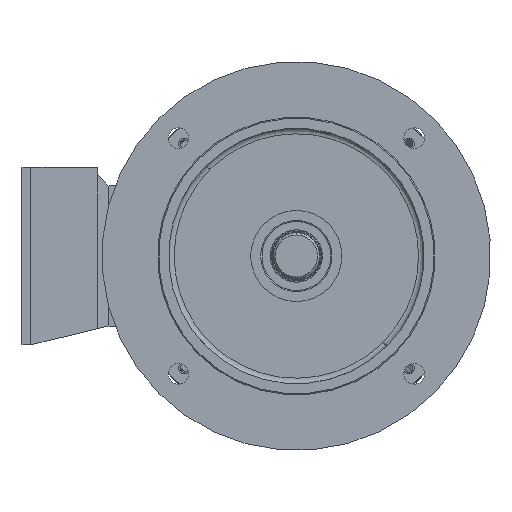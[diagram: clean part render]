
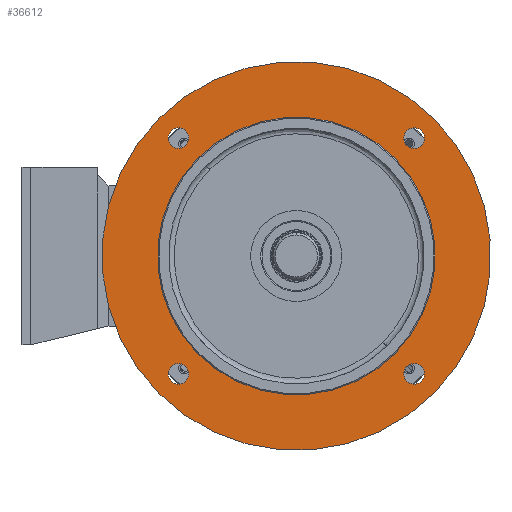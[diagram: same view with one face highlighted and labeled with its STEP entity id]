
A CAD part, left-side view. The second image highlights one B-rep face of the part: STEP entity #36612.
In plain terms, the highlighted planar face has unit normal (-1, 0, 0).
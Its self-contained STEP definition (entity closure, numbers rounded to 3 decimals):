
#471 = CIRCLE ( 'NONE', #58811, 175. ) ;
#473 = CIRCLE ( 'NONE', #58810, 125. ) ;
#484 = CIRCLE ( 'NONE', #58813, 9.25 ) ;
#501 = CIRCLE ( 'NONE', #58815, 9.25 ) ;
#512 = CIRCLE ( 'NONE', #58817, 9.25 ) ;
#530 = CIRCLE ( 'NONE', #58820, 9.25 ) ;
#958 = CIRCLE ( 'NONE', #58906, 125. ) ;
#960 = CIRCLE ( 'NONE', #58907, 175. ) ;
#962 = CIRCLE ( 'NONE', #58908, 9.25 ) ;
#964 = CIRCLE ( 'NONE', #58909, 9.25 ) ;
#966 = CIRCLE ( 'NONE', #58910, 9.25 ) ;
#968 = CIRCLE ( 'NONE', #58911, 9.25 ) ;
#24906 = CARTESIAN_POINT ( 'NONE',  ( -28.733, 0., 0. ) ) ;
#24908 = DIRECTION ( 'NONE',  ( -1., 0., 0. ) ) ;
#24910 = DIRECTION ( 'NONE',  ( 0., 0., 1. ) ) ;
#24919 = CARTESIAN_POINT ( 'NONE',  ( -28.733, 0., 0. ) ) ;
#24921 = DIRECTION ( 'NONE',  ( 1., 0., 0. ) ) ;
#24923 = DIRECTION ( 'NONE',  ( 0., 0., 1. ) ) ;
#24941 = CARTESIAN_POINT ( 'NONE',  ( -28.733, 0., 150. ) ) ;
#24943 = DIRECTION ( 'NONE',  ( -1., 0., 0. ) ) ;
#24944 = DIRECTION ( 'NONE',  ( 0., 0., 1. ) ) ;
#24961 = CARTESIAN_POINT ( 'NONE',  ( -28.733, 150., 0. ) ) ;
#24962 = DIRECTION ( 'NONE',  ( -1., 0., 0. ) ) ;
#24964 = DIRECTION ( 'NONE',  ( 0., 0., 1. ) ) ;
#24983 = CARTESIAN_POINT ( 'NONE',  ( -28.733, -150., 0. ) ) ;
#24985 = DIRECTION ( 'NONE',  ( -1., 0., 0. ) ) ;
#24987 = DIRECTION ( 'NONE',  ( 0., 0., 1. ) ) ;
#25012 = CARTESIAN_POINT ( 'NONE',  ( -28.733, 0., -150. ) ) ;
#25014 = DIRECTION ( 'NONE',  ( -1., 0., 0. ) ) ;
#25016 = DIRECTION ( 'NONE',  ( 0., 0., 1. ) ) ;
#25101 = FACE_BOUND ( 'NONE', #41727, .T. ) ;
#25119 = FACE_BOUND ( 'NONE', #41755, .T. ) ;
#25122 = FACE_BOUND ( 'NONE', #41682, .T. ) ;
#25124 = FACE_OUTER_BOUND ( 'NONE', #41718, .T. ) ;
#25128 = FACE_BOUND ( 'NONE', #41753, .T. ) ;
#25129 = FACE_BOUND ( 'NONE', #41729, .T. ) ;
#27413 = CARTESIAN_POINT ( 'NONE',  ( -28.733, 0., 0. ) ) ;
#27414 = DIRECTION ( 'NONE',  ( -1., 0., 0. ) ) ;
#27415 = DIRECTION ( 'NONE',  ( 0., 0., 1. ) ) ;
#27416 = CARTESIAN_POINT ( 'NONE',  ( -28.733, 0., 0. ) ) ;
#27417 = DIRECTION ( 'NONE',  ( 1., 0., 0. ) ) ;
#27418 = DIRECTION ( 'NONE',  ( 0., 0., 1. ) ) ;
#27419 = CARTESIAN_POINT ( 'NONE',  ( -28.733, 0., 150. ) ) ;
#27420 = DIRECTION ( 'NONE',  ( -1., 0., 0. ) ) ;
#27421 = DIRECTION ( 'NONE',  ( 0., 0., 1. ) ) ;
#27422 = CARTESIAN_POINT ( 'NONE',  ( -28.733, 150., 0. ) ) ;
#27423 = DIRECTION ( 'NONE',  ( -1., 0., 0. ) ) ;
#27424 = DIRECTION ( 'NONE',  ( 0., 0., 1. ) ) ;
#27427 = CARTESIAN_POINT ( 'NONE',  ( -28.733, -150., 0. ) ) ;
#27428 = DIRECTION ( 'NONE',  ( -1., 0., 0. ) ) ;
#27429 = DIRECTION ( 'NONE',  ( 0., 0., 1. ) ) ;
#27430 = CARTESIAN_POINT ( 'NONE',  ( -28.733, 0., -150. ) ) ;
#27431 = DIRECTION ( 'NONE',  ( -1., 0., 0. ) ) ;
#27432 = DIRECTION ( 'NONE',  ( 0., 0., 1. ) ) ;
#36612 = ADVANCED_FACE ( 'NONE', ( #25101, #25128, #25119, #25122, #25124, #25129 ), #57124, .F. ) ;
#41682 = EDGE_LOOP ( 'NONE', ( #41977, #41978 ) ) ;
#41718 = EDGE_LOOP ( 'NONE', ( #41979, #41980 ) ) ;
#41727 = EDGE_LOOP ( 'NONE', ( #41971, #41972 ) ) ;
#41729 = EDGE_LOOP ( 'NONE', ( #41981, #41982 ) ) ;
#41753 = EDGE_LOOP ( 'NONE', ( #41973, #41974 ) ) ;
#41755 = EDGE_LOOP ( 'NONE', ( #41975, #41976 ) ) ;
#41971 = ORIENTED_EDGE ( 'NONE', *, *, #59375, .F. ) ;
#41972 = ORIENTED_EDGE ( 'NONE', *, *, #59154, .F. ) ;
#41973 = ORIENTED_EDGE ( 'NONE', *, *, #59374, .F. ) ;
#41974 = ORIENTED_EDGE ( 'NONE', *, *, #59149, .F. ) ;
#41975 = ORIENTED_EDGE ( 'NONE', *, *, #59373, .F. ) ;
#41976 = ORIENTED_EDGE ( 'NONE', *, *, #59145, .F. ) ;
#41977 = ORIENTED_EDGE ( 'NONE', *, *, #59372, .F. ) ;
#41978 = ORIENTED_EDGE ( 'NONE', *, *, #59141, .F. ) ;
#41979 = ORIENTED_EDGE ( 'NONE', *, *, #59371, .F. ) ;
#41980 = ORIENTED_EDGE ( 'NONE', *, *, #59137, .F. ) ;
#41981 = ORIENTED_EDGE ( 'NONE', *, *, #59135, .F. ) ;
#41982 = ORIENTED_EDGE ( 'NONE', *, *, #59370, .F. ) ;
#45585 = VERTEX_POINT ( 'NONE', #67819 ) ;
#45586 = VERTEX_POINT ( 'NONE', #67820 ) ;
#45587 = VERTEX_POINT ( 'NONE', #67814 ) ;
#45588 = VERTEX_POINT ( 'NONE', #67815 ) ;
#45605 = VERTEX_POINT ( 'NONE', #67836 ) ;
#45609 = VERTEX_POINT ( 'NONE', #67840 ) ;
#45610 = VERTEX_POINT ( 'NONE', #67841 ) ;
#45613 = VERTEX_POINT ( 'NONE', #67844 ) ;
#45617 = VERTEX_POINT ( 'NONE', #67848 ) ;
#45618 = VERTEX_POINT ( 'NONE', #67849 ) ;
#45678 = VERTEX_POINT ( 'NONE', #67909 ) ;
#45686 = VERTEX_POINT ( 'NONE', #67917 ) ;
#49872 = AXIS2_PLACEMENT_3D ( 'NONE', #57126, #57122, #57127 ) ;
#57122 = DIRECTION ( 'NONE',  ( 1., 0., 0. ) ) ;
#57124 = PLANE ( 'NONE',  #49872 ) ;
#57126 = CARTESIAN_POINT ( 'NONE',  ( -28.733, 125., 0. ) ) ;
#57127 = DIRECTION ( 'NONE',  ( 0., 0., -1. ) ) ;
#58810 = AXIS2_PLACEMENT_3D ( 'NONE', #24906, #24908, #24910 ) ;
#58811 = AXIS2_PLACEMENT_3D ( 'NONE', #24919, #24921, #24923 ) ;
#58813 = AXIS2_PLACEMENT_3D ( 'NONE', #24941, #24943, #24944 ) ;
#58815 = AXIS2_PLACEMENT_3D ( 'NONE', #24961, #24962, #24964 ) ;
#58817 = AXIS2_PLACEMENT_3D ( 'NONE', #24983, #24985, #24987 ) ;
#58820 = AXIS2_PLACEMENT_3D ( 'NONE', #25012, #25014, #25016 ) ;
#58906 = AXIS2_PLACEMENT_3D ( 'NONE', #27413, #27414, #27415 ) ;
#58907 = AXIS2_PLACEMENT_3D ( 'NONE', #27416, #27417, #27418 ) ;
#58908 = AXIS2_PLACEMENT_3D ( 'NONE', #27419, #27420, #27421 ) ;
#58909 = AXIS2_PLACEMENT_3D ( 'NONE', #27422, #27423, #27424 ) ;
#58910 = AXIS2_PLACEMENT_3D ( 'NONE', #27427, #27428, #27429 ) ;
#58911 = AXIS2_PLACEMENT_3D ( 'NONE', #27430, #27431, #27432 ) ;
#59135 = EDGE_CURVE ( 'NONE', #45586, #45609, #473, .T. ) ;
#59137 = EDGE_CURVE ( 'NONE', #45587, #45588, #471, .T. ) ;
#59141 = EDGE_CURVE ( 'NONE', #45585, #45610, #484, .T. ) ;
#59145 = EDGE_CURVE ( 'NONE', #45618, #45617, #501, .T. ) ;
#59149 = EDGE_CURVE ( 'NONE', #45678, #45613, #512, .T. ) ;
#59154 = EDGE_CURVE ( 'NONE', #45686, #45605, #530, .T. ) ;
#59370 = EDGE_CURVE ( 'NONE', #45609, #45586, #958, .T. ) ;
#59371 = EDGE_CURVE ( 'NONE', #45588, #45587, #960, .T. ) ;
#59372 = EDGE_CURVE ( 'NONE', #45610, #45585, #962, .T. ) ;
#59373 = EDGE_CURVE ( 'NONE', #45617, #45618, #964, .T. ) ;
#59374 = EDGE_CURVE ( 'NONE', #45613, #45678, #966, .T. ) ;
#59375 = EDGE_CURVE ( 'NONE', #45605, #45686, #968, .T. ) ;
#67814 = CARTESIAN_POINT ( 'NONE',  ( -28.733, 0., -175. ) ) ;
#67815 = CARTESIAN_POINT ( 'NONE',  ( -28.733, 0., 175. ) ) ;
#67819 = CARTESIAN_POINT ( 'NONE',  ( -28.733, 0., 140.75 ) ) ;
#67820 = CARTESIAN_POINT ( 'NONE',  ( -28.733, 0., 125. ) ) ;
#67836 = CARTESIAN_POINT ( 'NONE',  ( -28.733, 0., -140.75 ) ) ;
#67840 = CARTESIAN_POINT ( 'NONE',  ( -28.733, 0., -125. ) ) ;
#67841 = CARTESIAN_POINT ( 'NONE',  ( -28.733, 0., 159.25 ) ) ;
#67844 = CARTESIAN_POINT ( 'NONE',  ( -28.733, -150., 9.25 ) ) ;
#67848 = CARTESIAN_POINT ( 'NONE',  ( -28.733, 150., 9.25 ) ) ;
#67849 = CARTESIAN_POINT ( 'NONE',  ( -28.733, 150., -9.25 ) ) ;
#67909 = CARTESIAN_POINT ( 'NONE',  ( -28.733, -150., -9.25 ) ) ;
#67917 = CARTESIAN_POINT ( 'NONE',  ( -28.733, 0., -159.25 ) ) ;
